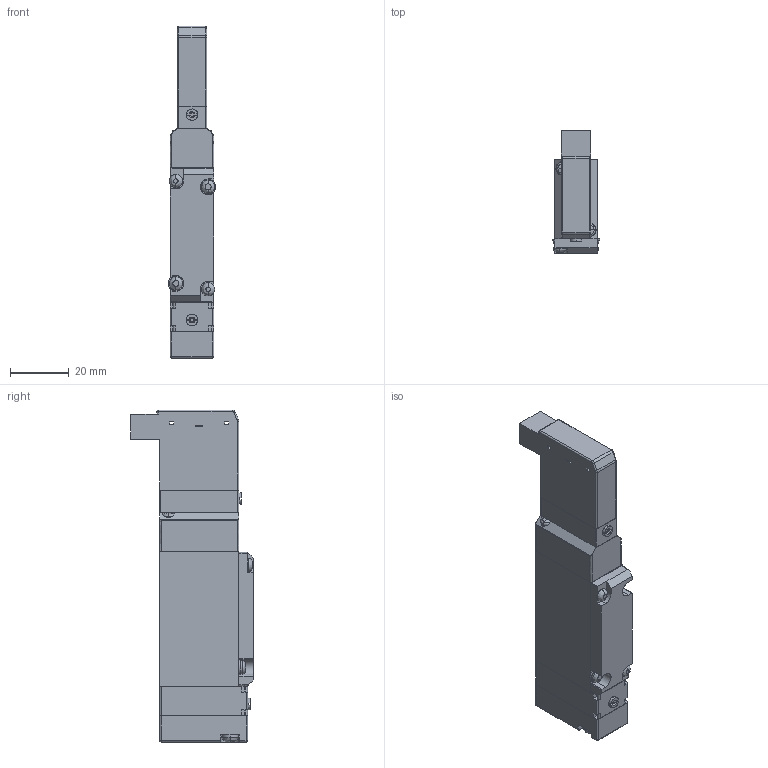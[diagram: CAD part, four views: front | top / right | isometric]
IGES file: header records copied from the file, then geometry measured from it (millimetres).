
Start section: ------------------------------------------------------------------------
Global section: file name: D:\ICADMX\tmp\trans3d_spg\CVICAD02.7120.F15T2-A1_16978.igs; native system: spGate; preprocessor: ver12.6.6; author: Unknown; organization: Unknown; date: 210712.184946; units: millimetre
Bounding box: 16.2 x 42 x 113.5 mm (x, y, z)
Volume: 45097.9 mm3; surface area: 17177.7 mm2
Topology: 7 solids, 7 shells, 284 faces, 726 edges, 461 vertices
Faces by surface type: bspline 284
